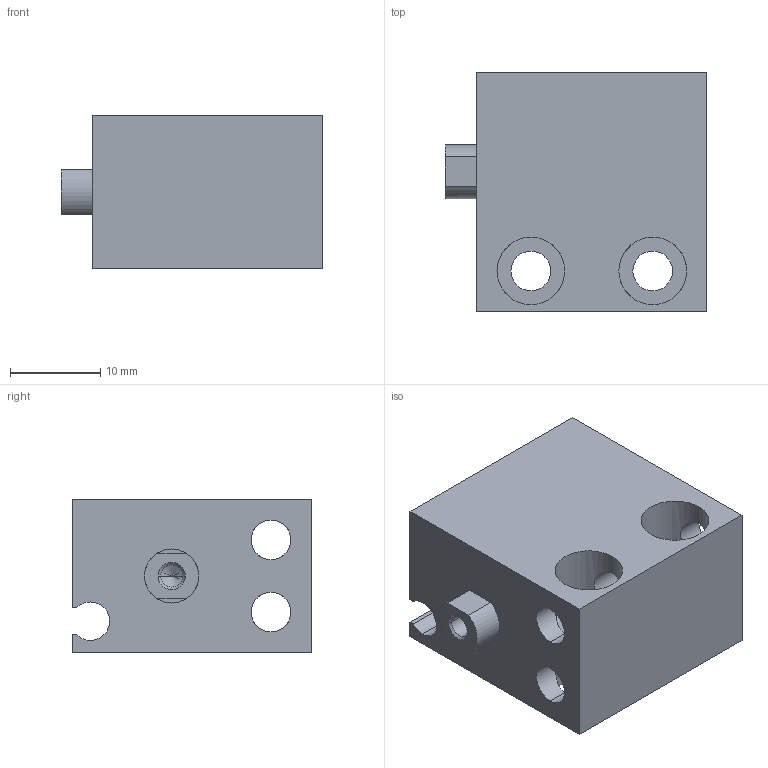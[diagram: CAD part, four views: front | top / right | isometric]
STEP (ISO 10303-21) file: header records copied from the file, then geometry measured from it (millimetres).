
FILE_DESCRIPTION (( 'STEP AP203' ), '1' );
FILE_NAME ('CLJB12-10.STEP', '2020-07-30T18:49:24', ( '' ), ( '' ), 'SwSTEP 2.0', 'SolidWorks 2019', '' );
FILE_SCHEMA (( 'CONFIG_CONTROL_DESIGN' ));
Length unit declared in the file: millimetre
Products named in the file (1): CLJB12-10
Bounding box: 29 x 26.5 x 17 mm (x, y, z)
Volume: 8629.8 mm3; surface area: 5656.7 mm2
Topology: 2 solids, 2 shells, 75 faces, 188 edges, 113 vertices
Faces by surface type: cylinder 41, plane 22, cone 12
Entity records: 3119 total; most frequent: CARTESIAN_POINT 1223, DIRECTION 394, ORIENTED_EDGE 364, EDGE_CURVE 182, AXIS2_PLACEMENT_3D 152, VERTEX_POINT 113, EDGE_LOOP 93, VECTOR 90
